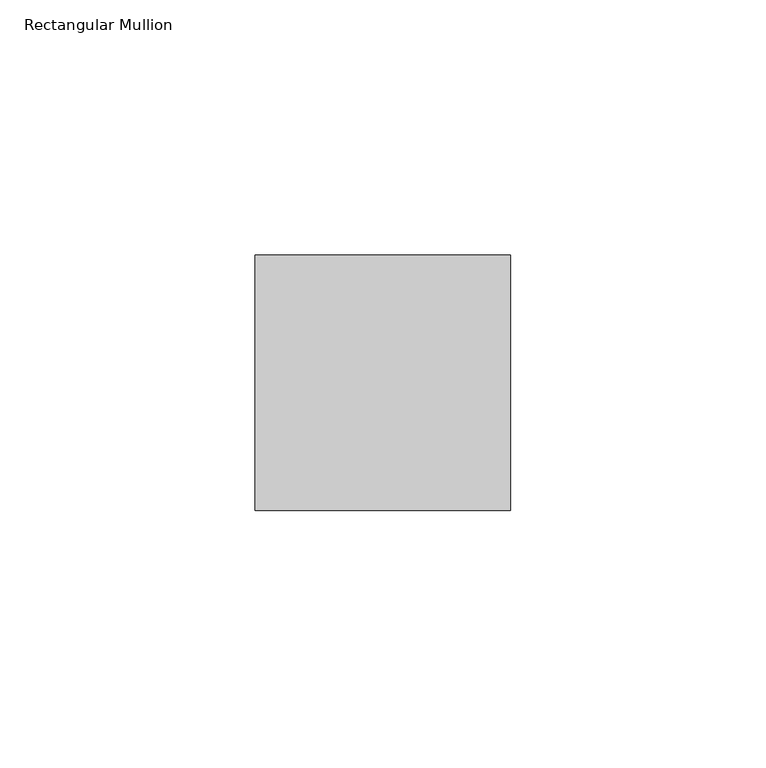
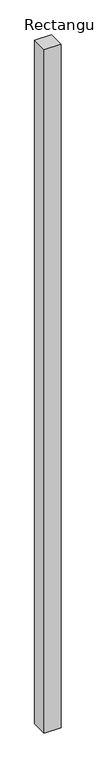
"""IFC4 building model written with IfcOpenShell, lengths in millimetres: member geometry, Rectangular Mullion : Mullion_Curtain Wall_Generic Showcase_50x50mm."""

from ifc_helpers import new_model, si_unit, frame, origin, place, context, project, spatial, polyline, outline, extrude, source, transform, mapped, element, save


def rectangular_mullion_f6f2cbce(model_context):
    return source(origin(), model_context, "Body", "SweptSolid", [
        extrude(outline(polyline([(0.0, 0.0), (0.0, -50.0), (-50.0, -50.0), (-50.0, 0.0), (0.0, 0.0)])), frame((0.0, 0.0, -2175.0), z_axis=(0.0, 0.0, 1.0), x_axis=(1.0, 0.0, 0.0)), (0.0, 0.0, 1.0), 2175.0),
    ])


if __name__ == "__main__":
    model = new_model("IFC4")
    model_context = context("Model", 3, world=origin())
    ifc_project = project(units=[si_unit("LENGTHUNIT", "METRE", prefix="MILLI")], contexts=[model_context])
    site = spatial("IfcSite", under=ifc_project)
    building = spatial("IfcBuilding", under=site)
    placement = place(None, origin())
    rectangular_mullion_shape = rectangular_mullion_f6f2cbce(model_context)
    element("IfcMember", 1, ObjectType="Rectangular Mullion : Mullion_Curtain Wall_Generic Showcase_50x50mm", at=placement, inside=building, context=model_context, shape_type="MappedRepresentation", body=[
        mapped(rectangular_mullion_shape, transform((0.0, 0.0, 0.0), x_axis=(1.0, 0.0, 0.0), y_axis=(0.0, 1.0, 0.0), z_axis=(0.0, 0.0, 1.0))),
    ])
    save(model, "model.ifc")
